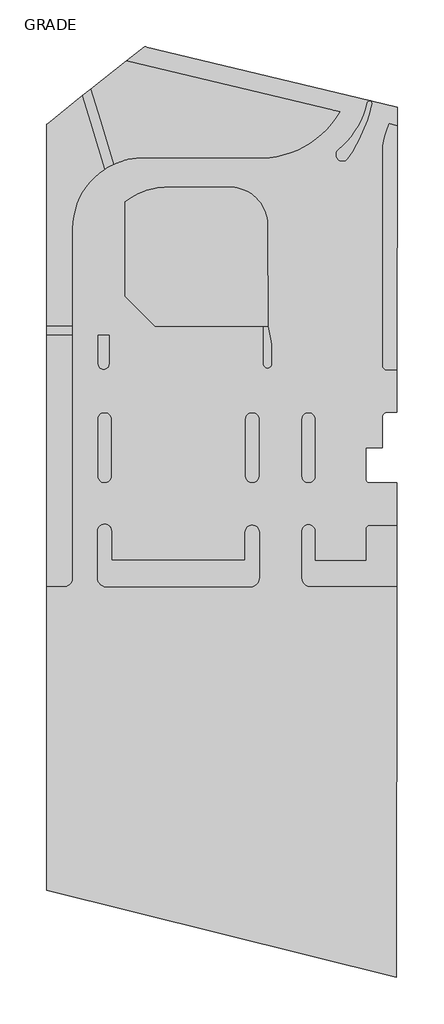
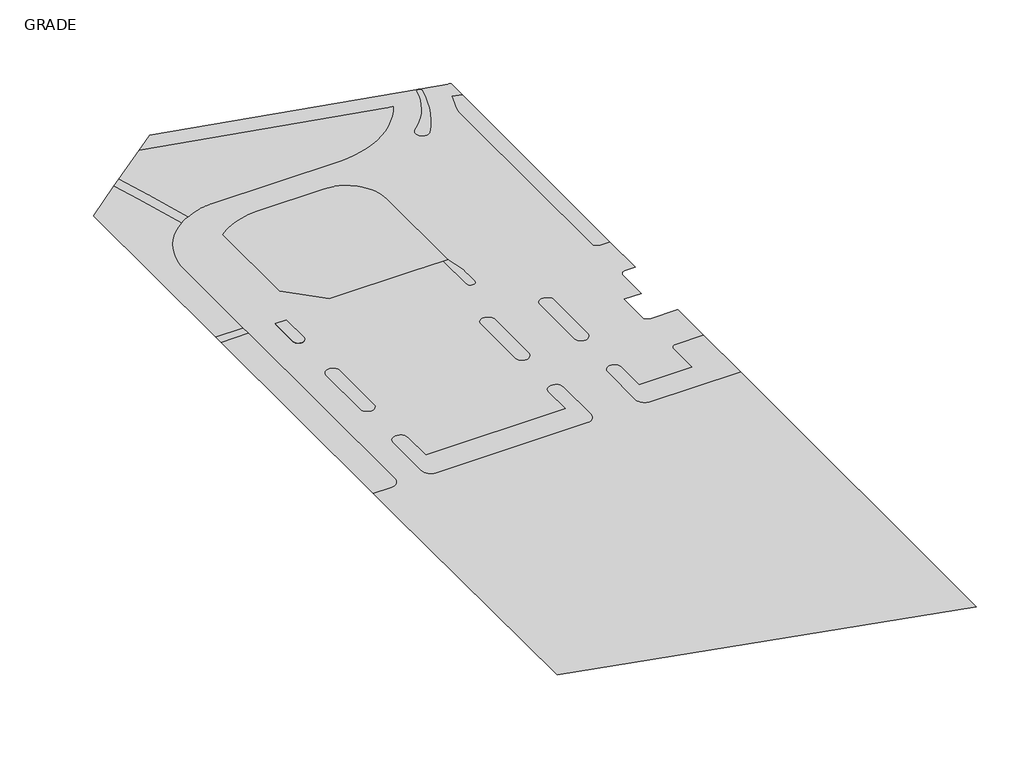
# One storey, incomplete: 17 proxies.
"""IFC4 building model written with IfcOpenShell, lengths in millimetres."""

from ifc_helpers import new_model, si_unit, origin, place, context, project, spatial, triangles, element, save

model = new_model("IFC4")

# Units and contexts
model_context = context("Model", 3, world=origin())
ifc_project = project(units=[si_unit("LENGTHUNIT", "METRE", prefix="MILLI")], contexts=[model_context])

# Site, building, storey
site = spatial("IfcSite", under=ifc_project)
building = spatial("IfcBuilding", under=site)
storey = spatial("IfcBuildingStorey", under=building, Name="GRADE", Elevation=30327.6)

# Proxies
placement = place(None, origin())
element("IfcBuildingElementProxy", 1, Name="Building Element Proxy", at=placement, inside=storey, context=model_context, shape_type="Tessellation", body=[
    triangles([(28242.2296143, 26363.5907959, 30327.6), (28245.7573059, 29510.2591919, 30327.6), (23583.360498, 30631.3349487, 30327.6), (23745.5296692, 30528.9784058, 30327.6), (23852.3557068, 30366.7929565, 30327.6), (23882.746875, 30174.9790833, 30327.6), (23671.0737488, 29293.0561707, 30327.6), (23531.3985535, 28711.1126221, 30327.6), (23092.4579041, 27271.0819153, 30327.6), (22567.5225037, 25860.1285034, 30327.6), (21958.5038635, 24483.3753296, 30327.6), (21267.6111511, 23145.8337158, 30327.6), (20497.3581665, 21852.3638306, 30327.6), (19650.5470642, 20607.6700378, 30327.6), (19428.1048279, 20376.5004272, 30327.6), (19150.8915161, 20215.0265625, 30327.6), (18840.0732788, 20135.5779236, 30327.6), (18519.3765747, 20144.2192566, 30327.6), (18213.2871185, 20240.2901367, 30327.6), (17945.1732513, 20416.4584534, 30327.6), (17735.5034912, 20659.2738647, 30327.6), (17600.2850006, 20950.1979675, 30327.6), (17549.841568, 21267.0204895, 30327.6), (17588.0241211, 21585.5522095, 30327.6), (17711.9165588, 21881.4760071, 30327.6), (17912.0624817, 22132.200238, 30327.6), (18731.0671417, 22848.0635193, 30327.6), (19494.5763519, 23622.84646, 30327.6), (20198.3624634, 24452.2539734, 30327.6), (20838.5280396, 25331.6956421, 30327.6), (21411.5302734, 26256.3043213, 30327.6), (21914.1972656, 27220.9593933, 30327.6), (22343.7431396, 28220.3193237, 30327.6), (22697.0913391, 29246.8124817, 30327.6), (22697.7936218, 29248.8518921, 30327.6), (22974.3860413, 30300.8644226, 30327.6), (23055.7950256, 30477.1862183, 30327.6), (23202.7023376, 30604.2063721, 30327.6), (23388.9305054, 30659.2960327, 30327.6), (23573.3936646, 30633.7324768, 30327.6), (-15548.2904846, 40040.5699219, 30327.6), (-18686.8233307, 37566.6999939, 30327.6), (17349.5061218, 28992.9117004, 30327.6), (18331.1287628, 28759.3631653, 30327.6), (17666.0019196, 27691.0074463, 30327.6), (16918.5266144, 26678.5529663, 30327.6), (16093.3781433, 25728.3388733, 30327.6), (15195.7166565, 24846.3020142, 30327.6), (14231.1592529, 24037.9653076, 30327.6), (13205.7381226, 23308.3819336, 30327.6), (12125.8668274, 22662.1167297, 30327.6), (10998.300769, 22103.2113098, 30327.6), (9830.0930054, 21635.1608093, 30327.6), (8628.5500671, 21260.895282, 30327.6), (7401.1877747, 20982.7541199, 30327.6), (6155.6829849, 20802.4767517, 30327.6), (4899.8276642, 20721.1933411, 30327.6), (-16581.411145, 20697.0436523, 30327.6), (-17415.7102203, 20649.7558411, 30327.6), (-18241.6667816, 20522.9240479, 30327.6), (-19051.7161743, 20317.7156433, 30327.6), (-19838.4379211, 20036.0072571, 30327.6), (-20407.2776184, 19826.9735046, 30327.6), (-20957.8114563, 19573.6215271, 30327.6), (-21500.5853027, 19335.0151611, 30327.6), (-22019.2699219, 19047.7861816, 30327.6), (-22509.5237183, 18714.339093, 30327.6), (-23396.7346802, 18071.5911163, 30327.6), (-24222.6656616, 17351.7943542, 30327.6), (-24980.6449768, 16560.7612427, 30327.6), (-25664.5543945, 15704.8786011, 30327.6), (-26268.8733215, 14791.0576355, 30327.6), (-26788.7160095, 13826.6769653, 30327.6), (-27219.8920166, 12819.5244873, 30327.6), (-27558.915509, 11777.7322632, 30327.6), (-27803.0494446, 10709.7125702, 30327.6), (-27950.3218506, 9624.0887192, 30327.6), (-27999.5444275, 8529.6276169, 30327.6), (-27999.5444275, -8391.3988449, 30327.6), (-28000.6606384, -8391.3988449, 30327.6), (-28000.6606384, -9914.9587555, 30327.6), (-28001.5443054, -51977.3575928, 30327.6), (-28039.7512756, -52316.4717773, 30327.6), (-28152.4630005, -52638.5823486, 30327.6), (-28334.0240112, -52927.5368042, 30327.6), (-28575.3325378, -53168.8430054, 30327.6), (-28864.2869934, -53350.408667, 30327.6), (-29186.3952393, -53463.1180664, 30327.6), (-29525.5117493, -53501.3250366, 30327.6), (-32572.8466736, -53501.2645752, 30327.6), (-32572.9722473, -59394.8908813, 30327.6), (-32541.8229858, -106081.2644531, 30480.0), (28076.8304077, -121155.348999, 30327.6), (28152.6839172, -53502.538916, 30327.6), (13146.4243011, -53502.2226562, 30327.6), (12810.7110718, -53464.3970581, 30327.6), (12491.8316986, -53352.8178223, 30327.6), (12205.7759033, -53173.0753052, 30327.6), (11966.8893219, -52934.187561, 30327.6), (11787.1479675, -52648.130603, 30327.6), (11675.567569, -52329.2523926, 30327.6), (11637.7419708, -51993.5380005, 30327.6), (11637.7419708, -43916.3380005, 30327.6), (11686.8261841, -43574.954187, 30327.6), (11830.1011597, -43261.2244995, 30327.6), (12055.961792, -43000.5659912, 30327.6), (12346.1080353, -42814.1029541, 30327.6), (12677.0343475, -42716.9321411, 30327.6), (13021.9319, -42716.9321411, 30327.6), (13352.859375, -42814.1029541, 30327.6), (13643.0056183, -43000.5659912, 30327.6), (13868.8650879, -43261.2244995, 30327.6), (14012.1412262, -43574.954187, 30327.6), (14061.2242767, -43916.3380005, 30327.6), (14061.2242767, -48929.50177, 30327.6), (22746.9301575, -48929.50177, 30327.6), (22747.832428, -43596.422644, 30327.6), (22784.5418152, -43364.6507446, 30327.6), (22891.0771729, -43155.5658325, 30327.6), (23057.0065796, -42989.6364258, 30327.6), (23266.0938171, -42883.0987427, 30327.6), (23497.8657166, -42846.3893555, 30327.6), (28164.6320251, -42846.3893555, 30327.6), (28172.8478027, -35519.338916, 30327.6), (23499.7144409, -35508.9209473, 30327.6), (23267.4262939, -35472.1301697, 30327.6), (23057.8786194, -35365.3599426, 30327.6), (22891.5794678, -35199.060791, 30327.6), (22784.8092407, -34989.510791, 30327.6), (22748.0184631, -34757.2249695, 30327.6), (22748.4277405, -29423.1389282, 30327.6), (22773.8285156, -29423.1389282, 30327.6), (25644.0277405, -29423.1389282, 30327.6), (25644.0277405, -24089.1389282, 30327.6), (25681.3138367, -23853.7184143, 30327.6), (25789.5258362, -23641.3430054, 30327.6), (25958.0690369, -23472.7998047, 30327.6), (26170.4444458, -23364.5878052, 30327.6), (26405.8672852, -23327.301709, 30327.6), (28186.5167358, -23327.301709, 30327.6), (28194.7185608, -16012.138916, 30327.6), (26406.0044861, -16012.101709, 30327.6), (26170.5374634, -15974.8074738, 30327.6), (25958.1201965, -15866.575708, 30327.6), (25789.5467651, -15697.9999512, 30327.6), (25681.3138367, -15485.5826843, 30327.6), (25644.0207642, -15250.1168243, 30327.6), (25644.0207642, 19264.4915588, 30327.6), (25645.485791, 22077.8221619, 30327.6), (25684.6206116, 22890.8120728, 30327.6), (25800.822821, 23696.4024353, 30327.6), (25993.0389954, 24487.3099731, 30327.6), (26259.5297058, 25256.3769836, 30327.6), (26768.7939697, 26751.8694214, 30327.6), (1868.9208069, -48929.50177, 30327.6), (1869.0232716, -44053.1808105, 30327.6), (1918.4093559, -43709.6947998, 30327.6), (2062.5668358, -43394.0303467, 30327.6), (2289.8170635, -43131.771936, 30327.6), (2581.749099, -42944.1601318, 30327.6), (2914.7130775, -42846.3893555, 30327.6), (3261.7334656, -42846.3893555, 30327.6), (3594.6971535, -42944.1601318, 30327.6), (3886.6293343, -43131.771936, 30327.6), (4113.8794167, -43394.0303467, 30327.6), (4258.0368965, -43709.6947998, 30327.6), (4307.4231262, -44053.1808105, 30327.6), (4307.2568573, -51977.427356, 30327.6), (4269.018203, -52316.6810669, 30327.6), (4156.2489235, -52638.9218628, 30327.6), (3974.6033249, -52927.9879395, 30327.6), (3733.1898628, -53169.3918091, 30327.6), (3444.1127403, -53351.0272339, 30327.6), (3121.8670029, -53463.7831421, 30327.6), (2782.6106758, -53502.0040649, 30327.6), (-22210.3745361, -53501.4785156, 30327.6), (-22549.4910461, -53463.2715454, 30327.6), (-22871.599292, -53350.562146, 30327.6), (-23160.5537476, -53168.9964844, 30327.6), (-23401.8622742, -52927.6902832, 30327.6), (-23583.4232849, -52638.7358276, 30327.6), (-23696.1350098, -52316.6252563, 30327.6), (-23734.3443054, -51977.5110718, 30327.6), (-23733.4606384, -46473.2470459, 30327.6), (-23733.0443848, -43877.7217529, 30327.6), (-23683.6799561, -43534.3938721, 30327.6), (-23539.5910767, -43218.8782471, 30327.6), (-23312.4444763, -42956.7407593, 30327.6), (-23020.6483337, -42769.2126709, 30327.6), (-22687.8384155, -42671.4930542, 30327.6), (-22340.9781921, -42671.4930542, 30327.6), (-22008.1682739, -42769.2126709, 30327.6), (-21716.3721313, -42956.7407593, 30327.6), (-21499.2667786, -43207.2929077, 30327.6), (-21489.2278564, -43218.8782471, 30327.6), (-21345.1366516, -43534.3938721, 30327.6), (-21295.7722229, -43877.7217529, 30327.6), (-21295.7722229, -48929.50177, 30327.6), (-21295.5745605, -34451.5087463, 30327.6), (-21384.8505066, -34773.2286438, 30327.6), (-21557.6818176, -35058.8926025, 30327.6), (-21801.2343933, -35287.2716858, 30327.6), (-22097.4070129, -35441.4018127, 30327.6), (-22424.1963684, -35509.8278687, 30327.6), (-22757.3248718, -35487.4710937, 30327.6), (-23072.0405457, -35375.9872009, 30327.6), (-23344.9610962, -35183.661731, 30327.6), (-23555.8086914, -34924.7845093, 30327.6), (-23688.9191711, -34618.5892456, 30327.6), (-23734.400116, -34287.8233887, 30327.6), (-23733.7745728, -24564.3052734, 30327.6), (-23688.4401306, -24234.2091431, 30327.6), (-23555.8342712, -23928.5394287, 30327.6), (-23345.7656982, -23669.9087036, 30327.6), (-23073.7753235, -23477.4506836, 30327.6), (-22759.9851746, -23365.401709, 30327.6), (-22427.6077881, -23342.0542969, 30327.6), (-22101.2346863, -23409.1339233, 30327.6), (-21805.0085815, -23561.6781006, 30327.6), (-21560.8467407, -23788.4014709, 30327.6), (-21386.8108521, -24072.5306396, 30327.6), (-21295.7722229, -24393.0482849, 30327.6), (4307.6248581, -34301.9178772, 30327.6), (4258.238047, -34645.4085388, 30327.6), (4114.0788231, -34961.0706665, 30327.6), (3886.8261246, -35223.3314026, 30327.6), (3594.8913277, -35410.9432068, 30327.6), (3261.924733, -35508.7070068, 30327.6), (2914.9026009, -35508.7046814, 30327.6), (2581.9383316, -35410.9315796, 30327.6), (2290.0070229, -35223.3127991, 30327.6), (2062.7599926, -34961.0474121, 30327.6), (1918.6074543, -34645.382959, 30327.6), (1869.2279102, -34301.8922974, 30327.6), (1869.4324036, -24559.6218384, 30327.6), (1914.8393703, -24229.2373535, 30327.6), (2047.6800991, -23923.344397, 30327.6), (2258.1069351, -23664.6206543, 30327.6), (2530.5211212, -23472.2486755, 30327.6), (2844.7278145, -23360.4834045, 30327.6), (3177.434832, -23337.6173584, 30327.6), (3503.9782722, -23405.3388062, 30327.6), (3800.1508919, -23558.6317749, 30327.6), (4043.9976357, -23786.1295166, 30327.6), (4217.4414093, -24070.9702698, 30327.6), (4307.6248581, -24392.0367188, 30327.6), (14061.2242767, -34301.9178772, 30327.6), (14011.8377563, -34645.4085388, 30327.6), (13867.6791138, -34961.0706665, 30327.6), (13640.4267059, -35223.3314026, 30327.6), (13348.491037, -35410.9432068, 30327.6), (13015.5253143, -35508.7070068, 30327.6), (12668.5023102, -35508.7046814, 30327.6), (12335.5377502, -35410.9315796, 30327.6), (12043.6067322, -35223.3127991, 30327.6), (11816.3601379, -34961.0474121, 30327.6), (11672.207309, -34645.382959, 30327.6), (11622.8277649, -34301.8922974, 30327.6), (11623.0324036, -24559.6218384, 30327.6), (11668.4389343, -24229.2373535, 30327.6), (11801.2796631, -23923.344397, 30327.6), (12011.7075165, -23664.6206543, 30327.6), (12284.1211212, -23472.2486755, 30327.6), (12598.3275238, -23360.4834045, 30327.6), (12931.0351227, -23337.6173584, 30327.6), (13257.5779816, -23405.3388062, 30327.6), (13553.7506012, -23558.6317749, 30327.6), (13797.597345, -23786.1295166, 30327.6), (13971.0414093, -24070.9702698, 30327.6), (14061.2242767, -24392.0367188, 30327.6), (-23581.1652832, -9915.3994263, 30327.6), (-21742.5379761, -9915.3994263, 30327.6), (-21752.3652832, -14944.3040955, 30327.6), (-21797.1206909, -15226.8694061, 30327.6), (-21927.0011353, -15481.7759399, 30327.6), (-22129.2957642, -15684.0694061, 30327.6), (-22384.2011353, -15813.9510132, 30327.6), (-22666.7652832, -15858.7040955, 30327.6), (-22949.3317566, -15813.9510132, 30327.6), (-23204.2371277, -15684.0694061, 30327.6), (-23406.5317566, -15481.7759399, 30327.6), (-23536.4122009, -15226.8694061, 30327.6), (-23581.1652832, -14944.3040955, 30327.6)], [[90, 91, 89], [91, 88, 89], [87, 91, 178], [87, 88, 91], [180, 85, 86], [86, 87, 179], [91, 92, 176], [180, 86, 179], [176, 177, 91], [87, 178, 179], [83, 84, 182], [181, 182, 84], [181, 84, 85], [180, 181, 85], [83, 182, 183], [178, 91, 177], [92, 175, 176], [82, 183, 184], [183, 82, 83], [184, 185, 82], [186, 209, 82], [208, 186, 187], [207, 188, 206], [188, 207, 187], [206, 188, 189], [209, 210, 82], [82, 185, 186], [189, 190, 205], [192, 193, 202], [205, 190, 204], [192, 203, 191], [203, 192, 202], [191, 203, 204], [190, 191, 204], [193, 201, 202], [189, 205, 206], [207, 208, 187], [198, 155, 156], [93, 174, 175], [196, 197, 157], [156, 157, 197], [197, 198, 156], [157, 233, 196], [98, 172, 173], [170, 171, 100], [171, 172, 99], [165, 105, 164], [168, 169, 102], [167, 168, 102], [224, 225, 256], [170, 101, 169], [173, 174, 97], [201, 194, 195], [195, 196, 200], [233, 157, 158], [159, 232, 158], [158, 232, 233], [201, 195, 200], [231, 160, 230], [231, 232, 159], [230, 160, 161], [160, 231, 159], [194, 201, 193], [161, 162, 229], [163, 164, 227], [162, 163, 228], [228, 229, 162], [226, 227, 164], [106, 226, 164], [228, 163, 227], [226, 255, 225], [161, 229, 230], [166, 104, 165], [175, 92, 93], [208, 209, 186], [210, 211, 81], [282, 212, 213], [281, 214, 280], [214, 281, 213], [211, 212, 81], [281, 282, 213], [215, 216, 279], [217, 218, 277], [216, 217, 278], [279, 280, 215], [277, 278, 217], [276, 277, 218], [279, 216, 278], [218, 219, 276], [215, 280, 214], [80, 81, 79], [77, 64, 76], [272, 78, 79], [75, 64, 74], [72, 73, 64], [73, 74, 64], [76, 64, 75], [79, 81, 271], [71, 72, 64], [64, 77, 78], [282, 283, 81], [81, 283, 271], [64, 69, 70], [68, 64, 67], [69, 64, 68], [64, 70, 71], [272, 79, 271], [81, 212, 282], [81, 82, 210], [234, 199, 233], [234, 235, 199], [199, 200, 233], [199, 235, 222], [220, 275, 219], [221, 222, 236], [236, 222, 235], [274, 220, 221], [221, 236, 274], [257, 223, 224], [237, 274, 236], [263, 242, 243], [238, 273, 237], [262, 243, 244], [233, 200, 196], [272, 238, 239], [275, 220, 274], [64, 78, 58], [237, 273, 274], [58, 78, 272], [65, 66, 64], [64, 62, 63], [64, 66, 67], [64, 58, 62], [273, 238, 272], [62, 58, 59], [57, 58, 272], [240, 57, 272], [241, 57, 240], [60, 61, 62], [242, 56, 241], [59, 60, 62], [272, 239, 240], [244, 245, 261], [219, 275, 276], [103, 166, 167], [103, 167, 102], [100, 171, 99], [170, 100, 101], [104, 105, 165], [226, 106, 255], [106, 164, 105], [104, 166, 103], [98, 173, 97], [95, 96, 93], [174, 96, 97], [253, 107, 108], [251, 252, 109], [109, 252, 108], [251, 109, 110], [106, 107, 254], [110, 111, 250], [172, 98, 99], [253, 108, 252], [259, 223, 258], [256, 225, 255], [257, 258, 223], [246, 259, 260], [246, 223, 259], [262, 244, 261], [261, 245, 260], [262, 263, 243], [224, 256, 257], [253, 254, 107], [250, 251, 110], [264, 242, 263], [147, 266, 267], [147, 265, 266], [264, 265, 147], [255, 106, 254], [56, 242, 264], [169, 101, 102], [114, 115, 116], [116, 117, 114], [114, 117, 113], [128, 111, 112], [118, 119, 112], [118, 113, 117], [118, 112, 113], [119, 128, 112], [127, 120, 121], [126, 122, 125], [122, 126, 121], [122, 124, 125], [124, 122, 123], [119, 120, 128], [95, 93, 94], [121, 126, 127], [130, 248, 129], [247, 130, 131], [130, 247, 248], [248, 249, 129], [136, 268, 269], [134, 270, 131], [131, 270, 247], [270, 135, 269], [132, 134, 131], [128, 129, 249], [250, 128, 249], [133, 134, 132], [135, 270, 134], [137, 145, 136], [268, 136, 145], [135, 136, 269], [120, 127, 128], [268, 146, 267], [250, 111, 128], [96, 174, 93], [138, 144, 137], [55, 147, 19], [53, 54, 19], [55, 19, 54], [147, 55, 56], [21, 52, 20], [50, 22, 23], [51, 21, 22], [24, 49, 23], [147, 18, 19], [16, 17, 148], [18, 147, 17], [53, 20, 52], [14, 15, 148], [13, 14, 148], [16, 148, 15], [19, 20, 53], [241, 56, 57], [52, 21, 51], [50, 23, 49], [22, 50, 51], [47, 48, 26], [45, 46, 29], [47, 28, 46], [49, 25, 48], [27, 47, 26], [28, 47, 27], [29, 30, 45], [46, 28, 29], [31, 44, 45], [45, 30, 31], [44, 31, 32], [26, 48, 25], [49, 24, 25], [43, 44, 37], [13, 149, 12], [43, 41, 42], [149, 13, 148], [146, 268, 145], [147, 56, 264], [10, 11, 151], [150, 151, 11], [150, 11, 12], [149, 150, 12], [10, 151, 152], [148, 17, 147], [139, 142, 143], [142, 139, 140], [140, 141, 142], [10, 153, 9], [138, 143, 144], [152, 153, 10], [144, 145, 137], [146, 147, 267], [33, 34, 44], [35, 44, 34], [36, 44, 35], [39, 41, 38], [37, 38, 43], [36, 37, 44], [44, 32, 33], [7, 8, 154], [154, 2, 7], [2, 154, 1], [8, 9, 154], [7, 2, 6], [5, 6, 2], [4, 5, 2], [3, 4, 2], [153, 154, 9], [39, 40, 41], [138, 139, 143], [38, 41, 43], [245, 246, 260]], closed=False),
])
element("IfcBuildingElementProxy", 2, Name="Building Element Proxy", at=placement, inside=storey, context=model_context, shape_type="Tessellation", body=[
    triangles([(-18958.0346832, -3209.7988449, 30473.6492249), (-18958.0346832, 13126.1418182, 30473.6492249), (-18444.6020691, 13509.2754089, 30473.6492249), (-17870.0522552, 13889.7835785, 30473.6492249), (-17300.233548, 14222.1423615, 30473.6492249), (-16702.1665649, 14527.3318726, 30473.6492249), (-15989.5112274, 14837.6699066, 30473.6492249), (-15189.678653, 15122.4548492, 30473.6492249), (-14044.8310913, 15422.4283997, 30473.6492249), (-13342.7297607, 15547.4323975, 30473.6492249), (-12657.2053253, 15627.982132, 30473.6492249), (-12072.9468018, 15664.9135986, 30473.6492249), (-11555.198172, 15673.4909821, 30473.6492249), (-812.2816692, 15685.5681519, 30473.6492249), (-262.3469045, 15663.0730133, 30473.6492249), (466.2814224, 15561.0966797, 30473.6492249), (1197.1792511, 15372.2477417, 30473.6492249), (1787.2287003, 15151.1112396, 30473.6492249), (2375.7480103, 14861.928891, 30473.6492249), (2928.9404068, 14517.7929199, 30473.6492249), (3320.339772, 14224.2003754, 30473.6492249), (3683.4960938, 13907.1604248, 30473.6492249), (4213.6172241, 13346.4876709, 30473.6492249), (4521.8263184, 12949.4735321, 30473.6492249), (4991.2424332, 12189.9850067, 30473.6492249), (5283.0868286, 11557.3817596, 30473.6492249), (5501.345018, 10914.372171, 30473.6492249), (5631.0836105, 10366.2114441, 30473.6492249), (5713.4902084, 9806.7862885, 30473.6492249), (5748.2654114, 9148.7311066, 30473.6492249), (5748.2654114, -2498.5989418, 30473.6492249), (5748.2654114, -7566.326532, 30473.6492249), (5766.5637131, -7979.2885345, 30473.6492249), (5798.7693054, -8391.3988449, 30473.6492249), (1717.5647839, -8391.3988449, 30473.6492249), (193.5647475, -8391.3988449, 30473.6492249), (-13776.4346832, -8391.3988449, 30473.6492249)], [[2, 1, 3], [4, 3, 1], [1, 5, 4], [1, 8, 7], [26, 25, 14], [1, 6, 5], [1, 7, 6], [13, 37, 36], [13, 1, 37], [8, 1, 9], [9, 1, 10], [11, 10, 1], [17, 16, 15], [11, 1, 12], [13, 12, 1], [30, 14, 13], [15, 14, 17], [31, 13, 36], [14, 29, 28], [30, 29, 14], [27, 14, 28], [26, 14, 27], [33, 34, 32], [34, 33, 35], [31, 32, 34], [30, 13, 31], [32, 31, 35], [31, 34, 30], [33, 32, 35], [31, 36, 35], [19, 14, 20], [14, 18, 17], [14, 19, 18], [14, 21, 20], [14, 24, 23], [22, 21, 14], [23, 22, 14], [14, 25, 24]], closed=False),
])
element("IfcBuildingElementProxy", 3, Name="Building Element Proxy", at=placement, inside=storey, context=model_context, shape_type="Tessellation", body=[
    triangles([(-27999.5444275, -8391.3988449, 30327.6), (-27999.5444275, 8529.6276169, 30327.6), (-27950.3218506, 9624.0887192, 30327.6), (-27803.0494446, 10709.7125702, 30327.6), (-27558.915509, 11777.7322632, 30327.6), (-27219.8920166, 12819.5244873, 30327.6), (-26788.7160095, 13826.6769653, 30327.6), (-26268.8733215, 14791.0576355, 30327.6), (-25664.5543945, 15704.8786011, 30327.6), (-24980.6449768, 16560.7612427, 30327.6), (-24222.6656616, 17351.7943542, 30327.6), (-23396.7346802, 18071.5911163, 30327.6), (-22509.5237183, 18714.339093, 30327.6), (-24986.207428, 26982.8436951, 30327.6), (-26347.6917664, 31528.2127625, 30327.6), (-32494.1677551, 26626.3724304, 30327.6), (-32571.1677063, 26564.9645508, 30327.6), (-32571.9002197, -8391.3988449, 30327.6)], [[18, 1, 2], [18, 2, 17], [17, 2, 3], [11, 16, 17], [5, 6, 17], [4, 5, 17], [17, 3, 4], [7, 17, 6], [9, 17, 8], [11, 17, 10], [10, 17, 9], [16, 14, 15], [12, 13, 14], [11, 12, 14], [11, 14, 16], [17, 7, 8]], closed=False),
])
element("IfcBuildingElementProxy", 4, Name="Building Element Proxy", at=placement, inside=storey, context=model_context, shape_type="Tessellation", body=[
    triangles([(-18686.8233307, 37566.6999939, 30327.6), (-24884.1415649, 32681.8214172, 30327.6), (-23202.4814209, 27067.5338745, 30327.6), (-20957.8114563, 19573.6215271, 30327.6), (-20407.2776184, 19826.9735046, 30327.6), (-19838.4379211, 20036.0072571, 30327.6), (-19051.7161743, 20317.7156433, 30327.6), (-18241.6667816, 20522.9240479, 30327.6), (-17415.7102203, 20649.7558411, 30327.6), (-16581.411145, 20697.0436523, 30327.6), (4899.8276642, 20721.1933411, 30327.6), (6155.6829849, 20802.4767517, 30327.6), (7401.1877747, 20982.7541199, 30327.6), (8628.5500671, 21260.895282, 30327.6), (9830.0930054, 21635.1608093, 30327.6), (10998.300769, 22103.2113098, 30327.6), (12125.8668274, 22662.1167297, 30327.6), (13205.7381226, 23308.3819336, 30327.6), (14231.1592529, 24037.9653076, 30327.6), (15195.7166565, 24846.3020142, 30327.6), (16093.3781433, 25728.3388733, 30327.6), (16918.5266144, 26678.5529663, 30327.6), (17666.0019196, 27691.0074463, 30327.6), (18331.1287628, 28759.3631653, 30327.6), (17349.5061218, 28992.9117004, 30327.6)], [[5, 6, 3], [4, 5, 3], [8, 9, 3], [7, 8, 3], [6, 7, 3], [2, 3, 1], [1, 3, 10], [1, 11, 25], [11, 1, 10], [3, 9, 10], [25, 11, 12], [14, 25, 13], [15, 25, 14], [25, 16, 17], [15, 16, 25], [25, 17, 18], [25, 19, 20], [25, 20, 21], [22, 23, 25], [24, 25, 23], [22, 25, 21], [19, 25, 18], [13, 25, 12]], closed=False),
])
element("IfcBuildingElementProxy", 5, Name="Building Element Proxy", at=placement, inside=storey, context=model_context, shape_type="Tessellation", body=[
    triangles([(-24884.1415649, 32681.8214172, 30327.6), (-26347.6917664, 31528.2127625, 30327.6), (-24986.207428, 26982.8436951, 30327.6), (-22509.5237183, 18714.339093, 30327.6), (-22019.2699219, 19047.7861816, 30327.6), (-21500.5853027, 19335.0151611, 30327.6), (-20957.8114563, 19573.6215271, 30327.6), (-23202.4814209, 27067.5338745, 30327.6)], [[3, 8, 2], [8, 3, 5], [1, 2, 8], [4, 5, 3], [6, 7, 8], [5, 6, 8]], closed=False),
])
element("IfcBuildingElementProxy", 6, Name="Building Element Proxy", at=placement, inside=storey, context=model_context, shape_type="Tessellation", body=[
    triangles([(-28000.6606384, -8391.3988449, 30327.6), (-32571.9002197, -8391.3988449, 30327.6), (-32571.9327759, -9914.9587555, 30327.6), (-28000.6606384, -9914.9587555, 30327.6)], [[2, 3, 4], [4, 1, 2]], closed=False),
])
element("IfcBuildingElementProxy", 7, Name="Building Element Proxy", at=placement, inside=storey, context=model_context, shape_type="Tessellation", body=[
    triangles([(1868.9208069, -48929.50177, 30327.6), (-21295.7722229, -48929.50177, 30327.6), (-21295.7722229, -43877.7217529, 30327.6), (-21345.1366516, -43534.3938721, 30327.6), (-21489.2278564, -43218.8782471, 30327.6), (-21499.2667786, -43207.2929077, 30327.6), (-21716.3721313, -42956.7407593, 30327.6), (-22008.1682739, -42769.2126709, 30327.6), (-22340.9781921, -42671.4930542, 30327.6), (-22687.8384155, -42671.4930542, 30327.6), (-23020.6483337, -42769.2126709, 30327.6), (-23312.4444763, -42956.7407593, 30327.6), (-23539.5910767, -43218.8782471, 30327.6), (-23683.6799561, -43534.3938721, 30327.6), (-23733.0443848, -43877.7217529, 30327.6), (-23733.4606384, -46473.2470459, 30327.6), (-23734.3443054, -51977.5110718, 30327.6), (-23696.1350098, -52316.6252563, 30327.6), (-23583.4232849, -52638.7358276, 30327.6), (-23401.8622742, -52927.6902832, 30327.6), (-23160.5537476, -53168.9964844, 30327.6), (-22871.599292, -53350.562146, 30327.6), (-22549.4910461, -53463.2715454, 30327.6), (-22210.3745361, -53501.4785156, 30327.6), (2782.6106758, -53502.0040649, 30327.6), (3121.8670029, -53463.7831421, 30327.6), (3444.1127403, -53351.0272339, 30327.6), (3733.1898628, -53169.3918091, 30327.6), (3974.6033249, -52927.9879395, 30327.6), (4156.2489235, -52638.9218628, 30327.6), (4269.018203, -52316.6810669, 30327.6), (4307.2568573, -51977.427356, 30327.6), (4307.4231262, -44053.1808105, 30327.6), (4258.0368965, -43709.6947998, 30327.6), (4113.8794167, -43394.0303467, 30327.6), (3886.6293343, -43131.771936, 30327.6), (3594.6971535, -42944.1601318, 30327.6), (3261.7334656, -42846.3893555, 30327.6), (2914.7130775, -42846.3893555, 30327.6), (2581.749099, -42944.1601318, 30327.6), (2289.8170635, -43131.771936, 30327.6), (2062.5668358, -43394.0303467, 30327.6), (1918.4093559, -43709.6947998, 30327.6), (1869.0232716, -44053.1808105, 30327.6)], [[18, 19, 17], [17, 2, 16], [15, 3, 6], [20, 17, 19], [23, 24, 17], [17, 22, 23], [22, 17, 21], [24, 2, 17], [20, 21, 17], [24, 25, 2], [16, 3, 15], [12, 13, 6], [12, 6, 11], [10, 11, 6], [14, 6, 13], [6, 4, 5], [6, 9, 10], [6, 8, 9], [8, 6, 7], [14, 15, 6], [6, 3, 4], [16, 2, 3], [32, 25, 26], [44, 1, 33], [25, 32, 1], [26, 27, 32], [32, 28, 29], [32, 29, 30], [33, 1, 32], [32, 30, 31], [32, 27, 28], [44, 33, 39], [44, 42, 43], [44, 41, 42], [40, 41, 44], [33, 35, 36], [36, 37, 33], [38, 39, 33], [33, 37, 38], [40, 44, 39], [35, 33, 34], [1, 2, 25]], closed=False),
])
element("IfcBuildingElementProxy", 8, Name="Building Element Proxy", at=placement, inside=storey, context=model_context, shape_type="Tessellation", body=[
    triangles([(-28000.6606384, -9914.9587555, 30327.6), (-32571.9327759, -9914.9587555, 30327.6), (-32572.8466736, -53501.2645752, 30327.6), (-29525.5117493, -53501.3250366, 30327.6), (-29186.3952393, -53463.1180664, 30327.6), (-28864.2869934, -53350.408667, 30327.6), (-28575.3325378, -53168.8430054, 30327.6), (-28334.0240112, -52927.5368042, 30327.6), (-28152.4630005, -52638.5823486, 30327.6), (-28039.7512756, -52316.4717773, 30327.6), (-28001.5443054, -51977.3575928, 30327.6)], [[11, 3, 4], [2, 3, 11], [6, 4, 5], [6, 7, 4], [8, 9, 4], [9, 10, 4], [1, 2, 11], [4, 10, 11], [8, 4, 7]], closed=False),
])
element("IfcBuildingElementProxy", 9, Name="Building Element Proxy", at=placement, inside=storey, context=model_context, shape_type="Tessellation", body=[
    triangles([(26406.0044861, -16012.101709, 30327.6), (28194.7185608, -16012.138916, 30327.6), (28242.2296143, 26363.5907959, 30327.6), (26768.7939697, 26751.8694214, 30327.6), (26259.5297058, 25256.3769836, 30327.6), (25993.0389954, 24487.3099731, 30327.6), (25800.822821, 23696.4024353, 30327.6), (25684.6206116, 22890.8120728, 30327.6), (25645.485791, 22077.8221619, 30327.6), (25644.0207642, 19264.4915588, 30327.6), (25644.0207642, -15250.1168243, 30327.6), (25681.3138367, -15485.5826843, 30327.6), (25789.5467651, -15697.9999512, 30327.6), (25958.1201965, -15866.575708, 30327.6), (26170.5374634, -15974.8074738, 30327.6)], [[1, 11, 12], [10, 11, 2], [3, 8, 9], [3, 7, 8], [3, 9, 10], [13, 1, 12], [14, 15, 1], [2, 11, 1], [3, 10, 2], [5, 6, 3], [3, 4, 5], [7, 3, 6], [13, 14, 1]], closed=False),
])
element("IfcBuildingElementProxy", 10, Name="Building Element Proxy", at=placement, inside=storey, context=model_context, shape_type="Tessellation", body=[
    triangles([(-21295.5745605, -34451.5087463, 30327.6), (-21295.7722229, -24393.0482849, 30327.6), (-21386.8108521, -24072.5306396, 30327.6), (-21560.8467407, -23788.4014709, 30327.6), (-21805.0085815, -23561.6781006, 30327.6), (-22101.2346863, -23409.1339233, 30327.6), (-22427.6077881, -23342.0542969, 30327.6), (-22759.9851746, -23365.401709, 30327.6), (-23073.7753235, -23477.4506836, 30327.6), (-23345.7656982, -23669.9087036, 30327.6), (-23555.8342712, -23928.5394287, 30327.6), (-23688.4401306, -24234.2091431, 30327.6), (-23733.7745728, -24564.3052734, 30327.6), (-23734.400116, -34287.8233887, 30327.6), (-23688.9191711, -34618.5892456, 30327.6), (-23555.8086914, -34924.7845093, 30327.6), (-23344.9610962, -35183.661731, 30327.6), (-23072.0405457, -35375.9872009, 30327.6), (-22757.3248718, -35487.4710937, 30327.6), (-22424.1963684, -35509.8278687, 30327.6), (-22097.4070129, -35441.4018127, 30327.6), (-21801.2343933, -35287.2716858, 30327.6), (-21557.6818176, -35058.8926025, 30327.6), (-21384.8505066, -34773.2286438, 30327.6)], [[1, 14, 15], [16, 1, 15], [1, 17, 18], [1, 16, 17], [13, 14, 1], [12, 2, 11], [10, 11, 2], [9, 2, 8], [10, 2, 9], [12, 13, 2], [18, 19, 1], [1, 20, 21], [1, 21, 22], [24, 1, 22], [24, 22, 23], [2, 13, 1], [6, 2, 5], [2, 6, 7], [5, 3, 4], [3, 5, 2], [8, 2, 7], [1, 19, 20]], closed=False),
])
element("IfcBuildingElementProxy", 11, Name="Building Element Proxy", at=placement, inside=storey, context=model_context, shape_type="Tessellation", body=[
    triangles([(4307.6248581, -34301.9178772, 30327.6), (4307.6248581, -24392.0367188, 30327.6), (4217.4414093, -24070.9702698, 30327.6), (4043.9976357, -23786.1295166, 30327.6), (3800.1508919, -23558.6317749, 30327.6), (3503.9782722, -23405.3388062, 30327.6), (3177.434832, -23337.6173584, 30327.6), (2844.7278145, -23360.4834045, 30327.6), (2530.5211212, -23472.2486755, 30327.6), (2258.1069351, -23664.6206543, 30327.6), (2047.6800991, -23923.344397, 30327.6), (1914.8393703, -24229.2373535, 30327.6), (1869.4324036, -24559.6218384, 30327.6), (1869.2279102, -34301.8922974, 30327.6), (1918.6074543, -34645.382959, 30327.6), (2062.7599926, -34961.0474121, 30327.6), (2290.0070229, -35223.3127991, 30327.6), (2581.9383316, -35410.9315796, 30327.6), (2914.9026009, -35508.7046814, 30327.6), (3261.924733, -35508.7070068, 30327.6), (3594.8913277, -35410.9432068, 30327.6), (3886.8261246, -35223.3314026, 30327.6), (4114.0788231, -34961.0706665, 30327.6), (4258.238047, -34645.4085388, 30327.6)], [[14, 15, 16], [14, 16, 17], [1, 17, 18], [17, 1, 14], [13, 14, 1], [13, 11, 12], [11, 13, 10], [13, 9, 10], [8, 9, 2], [2, 9, 13], [19, 1, 18], [1, 20, 21], [1, 21, 22], [23, 24, 1], [23, 1, 22], [2, 13, 1], [6, 2, 5], [2, 6, 7], [4, 2, 3], [2, 4, 5], [8, 2, 7], [1, 19, 20]], closed=False),
])
element("IfcBuildingElementProxy", 12, Name="Building Element Proxy", at=placement, inside=storey, context=model_context, shape_type="Tessellation", body=[
    triangles([(14061.2242767, -34301.9178772, 30327.6), (14061.2242767, -24392.0367188, 30327.6), (13971.0414093, -24070.9702698, 30327.6), (13797.597345, -23786.1295166, 30327.6), (13553.7506012, -23558.6317749, 30327.6), (13257.5779816, -23405.3388062, 30327.6), (12931.0351227, -23337.6173584, 30327.6), (12598.3275238, -23360.4834045, 30327.6), (12284.1211212, -23472.2486755, 30327.6), (12011.7075165, -23664.6206543, 30327.6), (11801.2796631, -23923.344397, 30327.6), (11668.4389343, -24229.2373535, 30327.6), (11623.0324036, -24559.6218384, 30327.6), (11622.8277649, -34301.8922974, 30327.6), (11672.207309, -34645.382959, 30327.6), (11816.3601379, -34961.0474121, 30327.6), (12043.6067322, -35223.3127991, 30327.6), (12335.5377502, -35410.9315796, 30327.6), (12668.5023102, -35508.7046814, 30327.6), (13015.5253143, -35508.7070068, 30327.6), (13348.491037, -35410.9432068, 30327.6), (13640.4267059, -35223.3314026, 30327.6), (13867.6791138, -34961.0706665, 30327.6), (14011.8377563, -34645.4085388, 30327.6)], [[14, 15, 16], [14, 16, 17], [14, 18, 1], [18, 14, 17], [13, 14, 1], [13, 11, 12], [11, 13, 10], [13, 9, 10], [8, 9, 2], [2, 9, 13], [19, 1, 18], [1, 20, 21], [1, 21, 22], [23, 24, 1], [23, 1, 22], [2, 13, 1], [6, 2, 5], [2, 6, 7], [4, 2, 3], [2, 4, 5], [8, 2, 7], [1, 19, 20]], closed=False),
])
element("IfcBuildingElementProxy", 13, Name="Building Element Proxy", at=placement, inside=storey, context=model_context, shape_type="Tessellation", body=[
    triangles([(13146.4243011, -53502.2226562, 30327.6), (28152.6839172, -53502.538916, 30327.6), (28164.6320251, -42846.3893555, 30327.6), (23497.8657166, -42846.3893555, 30327.6), (23266.0938171, -42883.0987427, 30327.6), (23057.0065796, -42989.6364258, 30327.6), (22891.0771729, -43155.5658325, 30327.6), (22784.5418152, -43364.6507446, 30327.6), (22747.832428, -43596.422644, 30327.6), (22746.9301575, -48929.50177, 30327.6), (14061.2242767, -48929.50177, 30327.6), (14061.2242767, -43916.3380005, 30327.6), (14012.1412262, -43574.954187, 30327.6), (13868.8650879, -43261.2244995, 30327.6), (13643.0056183, -43000.5659912, 30327.6), (13352.859375, -42814.1029541, 30327.6), (13021.9319, -42716.9321411, 30327.6), (12677.0343475, -42716.9321411, 30327.6), (12346.1080353, -42814.1029541, 30327.6), (12055.961792, -43000.5659912, 30327.6), (11830.1011597, -43261.2244995, 30327.6), (11686.8261841, -43574.954187, 30327.6), (11637.7419708, -43916.3380005, 30327.6), (11637.7419708, -51993.5380005, 30327.6), (11675.567569, -52329.2523926, 30327.6), (11787.1479675, -52648.130603, 30327.6), (11966.8893219, -52934.187561, 30327.6), (12205.7759033, -53173.0753052, 30327.6), (12491.8316986, -53352.8178223, 30327.6), (12810.7110718, -53464.3970581, 30327.6)], [[24, 25, 26], [27, 24, 26], [29, 30, 24], [24, 28, 29], [24, 27, 28], [24, 30, 1], [21, 23, 20], [21, 22, 23], [23, 12, 19], [20, 23, 19], [18, 19, 12], [18, 12, 17], [11, 23, 24], [24, 1, 11], [16, 17, 12], [14, 12, 13], [9, 10, 3], [10, 11, 1], [7, 8, 9], [3, 10, 2], [1, 2, 10], [16, 12, 15], [15, 12, 14], [7, 9, 6], [9, 5, 6], [4, 5, 9], [9, 3, 4], [12, 23, 11]], closed=False),
])
element("IfcBuildingElementProxy", 14, Name="Building Element Proxy", at=placement, inside=storey, context=model_context, shape_type="Tessellation", body=[
    triangles([(19650.5470642, 20607.6700378, 30327.6), (20497.3581665, 21852.3638306, 30327.6), (21267.6111511, 23145.8337158, 30327.6), (21958.5038635, 24483.3753296, 30327.6), (22567.5225037, 25860.1285034, 30327.6), (23092.4579041, 27271.0819153, 30327.6), (23531.3985535, 28711.1126221, 30327.6), (23671.0737488, 29293.0561707, 30327.6), (23882.746875, 30174.9790833, 30327.6), (23852.3557068, 30366.7929565, 30327.6), (23745.5296692, 30528.9784058, 30327.6), (23583.360498, 30631.3349487, 30327.6), (23573.3936646, 30633.7324768, 30327.6), (23388.9305054, 30659.2960327, 30327.6), (23202.7023376, 30604.2063721, 30327.6), (23055.7950256, 30477.1862183, 30327.6), (22974.3860413, 30300.8644226, 30327.6), (22697.7936218, 29248.8518921, 30327.6), (22697.0913391, 29246.8124817, 30327.6), (22343.7431396, 28220.3193237, 30327.6), (21914.1972656, 27220.9593933, 30327.6), (21411.5302734, 26256.3043213, 30327.6), (20838.5280396, 25331.6956421, 30327.6), (20198.3624634, 24452.2539734, 30327.6), (19494.5763519, 23622.84646, 30327.6), (18731.0671417, 22848.0635193, 30327.6), (17912.0624817, 22132.200238, 30327.6), (17711.9165588, 21881.4760071, 30327.6), (17588.0241211, 21585.5522095, 30327.6), (17549.841568, 21267.0204895, 30327.6), (17600.2850006, 20950.1979675, 30327.6), (17735.5034912, 20659.2738647, 30327.6), (17945.1732513, 20416.4584534, 30327.6), (18213.2871185, 20240.2901367, 30327.6), (18519.3765747, 20144.2192566, 30327.6), (18840.0732788, 20135.5779236, 30327.6), (19150.8915161, 20215.0265625, 30327.6), (19428.1048279, 20376.5004272, 30327.6)], [[33, 34, 32], [31, 32, 34], [34, 35, 31], [30, 35, 36], [37, 38, 28], [37, 29, 36], [31, 35, 30], [27, 38, 1], [30, 36, 29], [28, 29, 37], [27, 1, 26], [38, 27, 28], [2, 3, 25], [24, 25, 3], [4, 23, 24], [24, 3, 4], [2, 25, 26], [2, 26, 1], [21, 22, 5], [5, 23, 4], [6, 20, 21], [22, 23, 5], [7, 20, 6], [19, 7, 18], [19, 20, 7], [18, 7, 8], [6, 21, 5], [16, 17, 13], [15, 13, 14], [13, 15, 16], [17, 9, 13], [10, 13, 9], [13, 11, 12], [13, 10, 11], [9, 17, 8], [17, 18, 8]], closed=False),
])
element("IfcBuildingElementProxy", 15, Name="Building Element Proxy", at=placement, inside=storey, context=model_context, shape_type="Tessellation", body=[
    triangles([(-23581.1652832, -9915.3994263, 30327.6), (-23581.1652832, -14944.3040955, 30327.6), (-23536.4122009, -15226.8694061, 30327.6), (-23406.5317566, -15481.7759399, 30327.6), (-23204.2371277, -15684.0694061, 30327.6), (-22949.3317566, -15813.9510132, 30327.6), (-22666.7652832, -15858.7040955, 30327.6), (-22384.2011353, -15813.9510132, 30327.6), (-22129.2957642, -15684.0694061, 30327.6), (-21927.0011353, -15481.7759399, 30327.6), (-21797.1206909, -15226.8694061, 30327.6), (-21752.3652832, -14944.3040955, 30327.6), (-21742.5379761, -9915.3994263, 30327.6)], [[2, 4, 5], [2, 5, 6], [2, 3, 4], [1, 2, 12], [2, 6, 7], [8, 9, 2], [9, 10, 2], [10, 11, 12], [1, 12, 13], [2, 10, 12], [2, 7, 8]], closed=False),
])
element("IfcBuildingElementProxy", 16, Name="Building Element Proxy", at=placement, inside=storey, context=model_context, shape_type="Tessellation", body=[
    triangles([(-23581.1652832, -9915.3994263, 30454.5992249), (-21750.0444946, -9915.3994263, 30454.5992249), (-21750.0444946, -14929.6259216, 30454.5992249), (-21797.7787903, -15221.2011475, 30454.5992249), (-21920.4038635, -15461.1597565, 30454.5992249), (-22109.4713928, -15656.3513306, 30454.5992249), (-22303.2270081, -15769.6548798, 30454.5992249), (-22498.2918457, -15828.8024323, 30454.5992249), (-22664.4444946, -15844.0259216, 30454.5992249), (-22806.7683655, -15832.8812531, 30454.5992249), (-23040.9215149, -15762.9273834, 30454.5992249), (-23242.095282, -15638.4605621, 30454.5992249), (-23421.4378235, -15442.5469391, 30454.5992249), (-23523.9431946, -15241.7022217, 30454.5992249), (-23569.3194946, -15061.2748627, 30454.5992249), (-23578.8444946, -14929.6259216, 30454.5992249)], [[16, 13, 12], [16, 12, 11], [16, 11, 10], [15, 13, 16], [14, 13, 15], [1, 16, 2], [16, 10, 9], [8, 7, 16], [7, 6, 16], [6, 5, 16], [5, 4, 3], [16, 3, 2], [16, 5, 3], [16, 9, 8]], closed=False),
])
element("IfcBuildingElementProxy", 17, Name="Building Element Proxy", at=placement, inside=storey, context=model_context, shape_type="Tessellation", body=[
    triangles([(5070.0341354, -8391.3988449, 30454.5992249), (5798.7693054, -8391.3988449, 30454.5992249), (5862.2055496, -8931.1013672, 30454.5992249), (5933.9645416, -9382.1220932, 30454.5992249), (6073.6885712, -10055.9408478, 30454.5992249), (6205.2880966, -10563.0936127, 30454.5992249), (6333.7366516, -11015.2136902, 30454.5992249), (6434.6793274, -11637.0768951, 30454.5992249), (6441.6887833, -12336.4190918, 30454.5992249), (6441.669017, -13275.680365, 30454.5992249), (6441.6498322, -14214.9404755, 30454.5992249), (6441.6376236, -14795.5748016, 30454.5992249), (6403.7823761, -15169.5822052, 30454.5992249), (6232.4480667, -15438.0076813, 30454.5992249), (5971.4296967, -15595.9247864, 30454.5992249), (5755.8271591, -15630.6935944, 30454.5992249), (5475.9401733, -15570.9774719, 30454.5992249), (5258.9196991, -15417.5438141, 30454.5992249), (5126.2022186, -15216.7130493, 30454.5992249), (5070.0341354, -14944.8935944, 30454.5992249)], [[20, 19, 18], [13, 20, 17], [20, 18, 17], [17, 16, 13], [4, 1, 5], [6, 2, 3], [3, 2, 1], [4, 3, 1], [5, 3, 4], [6, 1, 20], [13, 16, 15], [13, 12, 20], [6, 3, 5], [13, 15, 14], [10, 20, 11], [11, 20, 12], [9, 20, 10], [6, 7, 2], [5, 1, 6], [20, 8, 7], [7, 6, 20], [20, 9, 8]], closed=False),
])

save(model, "model.ifc")
